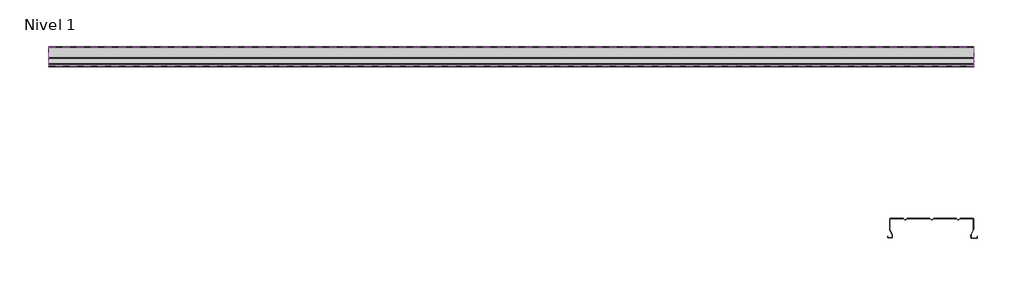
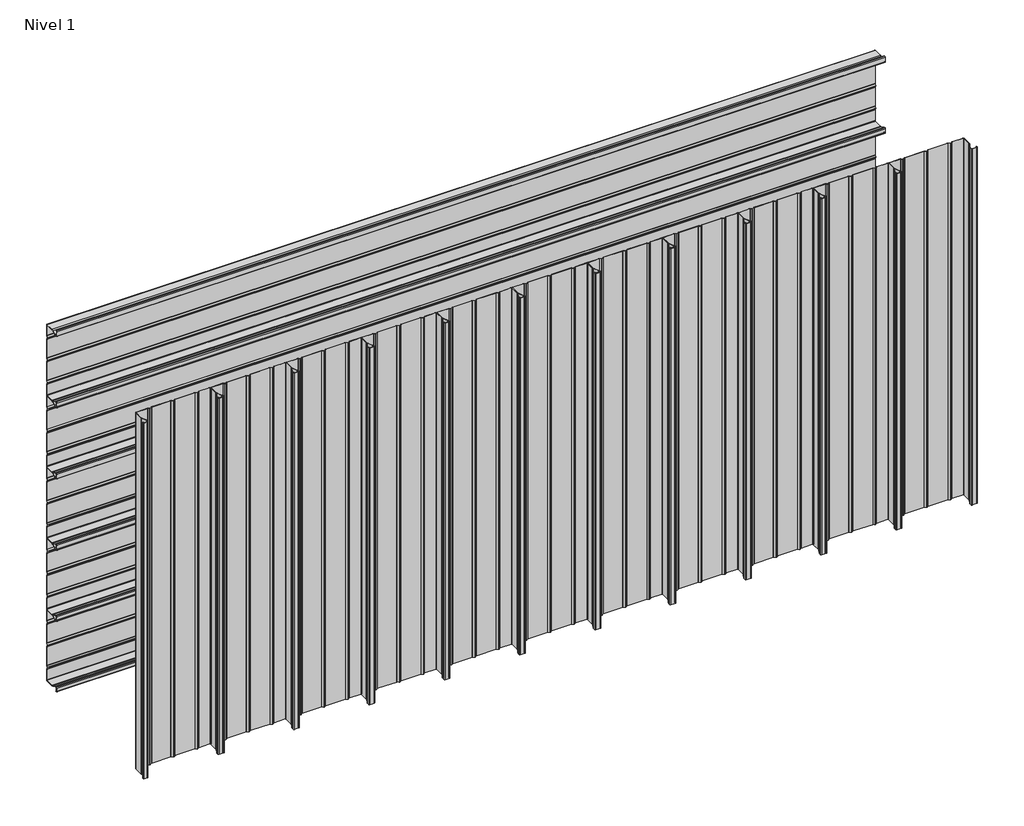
# One storey: 16 plates.
"""IFC4 building model written with IfcOpenShell, lengths in millimetres."""

from ifc_helpers import new_model, si_unit, origin, place, context, project, spatial, transform, mapped, element, save
from components import plate_6bf708f3, plate_c359fdd5

model = new_model("IFC4")

# Units and contexts
model_context = context("Model", 3, world=origin())
ifc_project = project(units=[si_unit("LENGTHUNIT", "METRE", prefix="MILLI")], contexts=[model_context])

# Site, building, storey
site = spatial("IfcSite", under=ifc_project)
building = spatial("IfcBuilding", under=site)
storey = spatial("IfcBuildingStorey", under=building, Name="Nivel 1", Elevation=0.0)

# Plates
placement = place(None, origin())
plate_shape = plate_6bf708f3(model_context)
element("IfcPlate", 1, ObjectType="HIANSA - H20.F09.006-CHAPA PERFILADA FACHADA VERTICAL - BANDEJA 90.380 - Panel de Muro Cortina : -", at=placement, inside=storey, context=model_context, shape_type="MappedRepresentation", body=[
    mapped(plate_shape, transform((4563.1436702, 17658.0269271, 0.0), x_axis=(1.0, 0.0, 0.0), y_axis=(0.0, 1.0, 0.0), z_axis=(0.0, 0.0, 1.0))),
])
element("IfcPlate", 2, ObjectType="HIANSA - H20.F09.006-CHAPA PERFILADA FACHADA VERTICAL - BANDEJA 90.380 - Panel de Muro Cortina : -", at=placement, inside=storey, context=model_context, shape_type="MappedRepresentation", body=[
    mapped(plate_shape, transform((7611.1436703, 17658.0269271, 0.0), x_axis=(1.0, 0.0, 0.0), y_axis=(0.0, 1.0, 0.0), z_axis=(0.0, 0.0, 1.0))),
])
element("IfcPlate", 3, ObjectType="HIANSA - H20.F09.006-CHAPA PERFILADA FACHADA VERTICAL - BANDEJA 90.380 - Panel de Muro Cortina : -", at=placement, inside=storey, context=model_context, shape_type="MappedRepresentation", body=[
    mapped(plate_shape, transform((7992.1436703, 17658.0269271, 0.0), x_axis=(1.0, 0.0, 0.0), y_axis=(0.0, 1.0, 0.0), z_axis=(0.0, 0.0, 1.0))),
])
element("IfcPlate", 4, ObjectType="HIANSA - H20.F09.006-CHAPA PERFILADA FACHADA VERTICAL - BANDEJA 90.380 - Panel de Muro Cortina : -", at=placement, inside=storey, context=model_context, shape_type="MappedRepresentation", body=[
    mapped(plate_shape, transform((8373.1436702, 17658.0269271, 0.0), x_axis=(1.0, 0.0, 0.0), y_axis=(0.0, 1.0, 0.0), z_axis=(0.0, 0.0, 1.0))),
])
element("IfcPlate", 5, ObjectType="HIANSA - H20.F09.006-CHAPA PERFILADA FACHADA VERTICAL - BANDEJA 90.380 - Panel de Muro Cortina : -", at=placement, inside=storey, context=model_context, shape_type="MappedRepresentation", body=[
    mapped(plate_shape, transform((7230.1436703, 17658.0269271, 0.0), x_axis=(1.0, 0.0, 0.0), y_axis=(0.0, 1.0, 0.0), z_axis=(0.0, 0.0, 1.0))),
])
element("IfcPlate", 6, ObjectType="HIANSA - H20.F09.006-CHAPA PERFILADA FACHADA VERTICAL - BANDEJA 90.380 - Panel de Muro Cortina : -", at=placement, inside=storey, context=model_context, shape_type="MappedRepresentation", body=[
    mapped(plate_shape, transform((6849.1436703, 17658.0269271, 0.0), x_axis=(1.0, 0.0, 0.0), y_axis=(0.0, 1.0, 0.0), z_axis=(0.0, 0.0, 1.0))),
])
element("IfcPlate", 7, ObjectType="HIANSA - H20.F09.006-CHAPA PERFILADA FACHADA VERTICAL - BANDEJA 90.380 - Panel de Muro Cortina : -", at=placement, inside=storey, context=model_context, shape_type="MappedRepresentation", body=[
    mapped(plate_shape, transform((6468.1436703, 17658.0269271, 0.0), x_axis=(1.0, 0.0, 0.0), y_axis=(0.0, 1.0, 0.0), z_axis=(0.0, 0.0, 1.0))),
])
element("IfcPlate", 8, ObjectType="HIANSA - H20.F09.006-CHAPA PERFILADA FACHADA VERTICAL - BANDEJA 90.380 - Panel de Muro Cortina : -", at=placement, inside=storey, context=model_context, shape_type="MappedRepresentation", body=[
    mapped(plate_shape, transform((6087.1436703, 17658.0269271, 0.0), x_axis=(1.0, 0.0, 0.0), y_axis=(0.0, 1.0, 0.0), z_axis=(0.0, 0.0, 1.0))),
])
element("IfcPlate", 9, ObjectType="HIANSA - H20.F09.006-CHAPA PERFILADA FACHADA VERTICAL - BANDEJA 90.380 - Panel de Muro Cortina : -", at=placement, inside=storey, context=model_context, shape_type="MappedRepresentation", body=[
    mapped(plate_shape, transform((5706.1436703, 17658.0269271, 0.0), x_axis=(1.0, 0.0, 0.0), y_axis=(0.0, 1.0, 0.0), z_axis=(0.0, 0.0, 1.0))),
])
element("IfcPlate", 10, ObjectType="HIANSA - H20.F09.006-CHAPA PERFILADA FACHADA VERTICAL - BANDEJA 90.380 - Panel de Muro Cortina : -", at=placement, inside=storey, context=model_context, shape_type="MappedRepresentation", body=[
    mapped(plate_shape, transform((5325.1436703, 17658.0269271, 0.0), x_axis=(1.0, 0.0, 0.0), y_axis=(0.0, 1.0, 0.0), z_axis=(0.0, 0.0, 1.0))),
])
element("IfcPlate", 11, ObjectType="HIANSA - H20.F09.006-CHAPA PERFILADA FACHADA VERTICAL - BANDEJA 90.380 - Panel de Muro Cortina : -", at=placement, inside=storey, context=model_context, shape_type="MappedRepresentation", body=[
    mapped(plate_shape, transform((4944.1436703, 17658.0269271, 0.0), x_axis=(1.0, 0.0, 0.0), y_axis=(0.0, 1.0, 0.0), z_axis=(0.0, 0.0, 1.0))),
])
plate_2_shape = plate_c359fdd5(model_context)
element("IfcPlate", 12, ObjectType="HIANSA - H20.F09.006-CHAPA PERFILADA FACHADA HORIZONTAL - BANDEJA 90.380 - Panel de Muro Cortina : -", at=placement, inside=storey, context=model_context, shape_type="MappedRepresentation", body=[
    mapped(plate_2_shape, transform((6468.14367, 18436.5269271, 0.0), x_axis=(1.0, 0.0, 0.0), y_axis=(0.0, 1.0, 0.0), z_axis=(0.0, 0.0, 1.0))),
])
element("IfcPlate", 13, ObjectType="HIANSA - H20.F09.006-CHAPA PERFILADA FACHADA HORIZONTAL - BANDEJA 90.380 - Panel de Muro Cortina : -", at=placement, inside=storey, context=model_context, shape_type="MappedRepresentation", body=[
    mapped(plate_2_shape, transform((6468.14367, 18436.5269271, 381.0), x_axis=(1.0, 0.0, 0.0), y_axis=(0.0, 1.0, 0.0), z_axis=(0.0, 0.0, 1.0))),
])
element("IfcPlate", 14, ObjectType="HIANSA - H20.F09.006-CHAPA PERFILADA FACHADA HORIZONTAL - BANDEJA 90.380 - Panel de Muro Cortina : -", at=placement, inside=storey, context=model_context, shape_type="MappedRepresentation", body=[
    mapped(plate_2_shape, transform((6468.14367, 18436.5269271, 762.0), x_axis=(1.0, 0.0, 0.0), y_axis=(0.0, 1.0, 0.0), z_axis=(0.0, 0.0, 1.0))),
])
element("IfcPlate", 15, ObjectType="HIANSA - H20.F09.006-CHAPA PERFILADA FACHADA HORIZONTAL - BANDEJA 90.380 - Panel de Muro Cortina : -", at=placement, inside=storey, context=model_context, shape_type="MappedRepresentation", body=[
    mapped(plate_2_shape, transform((6468.14367, 18436.5269271, 1143.0), x_axis=(1.0, 0.0, 0.0), y_axis=(0.0, 1.0, 0.0), z_axis=(0.0, 0.0, 1.0))),
])
element("IfcPlate", 16, ObjectType="HIANSA - H20.F09.006-CHAPA PERFILADA FACHADA HORIZONTAL - BANDEJA 90.380 - Panel de Muro Cortina : -", at=placement, inside=storey, context=model_context, shape_type="MappedRepresentation", body=[
    mapped(plate_2_shape, transform((6468.14367, 18436.5269271, 1524.0), x_axis=(1.0, 0.0, 0.0), y_axis=(0.0, 1.0, 0.0), z_axis=(0.0, 0.0, 1.0))),
])

save(model, "model.ifc")
